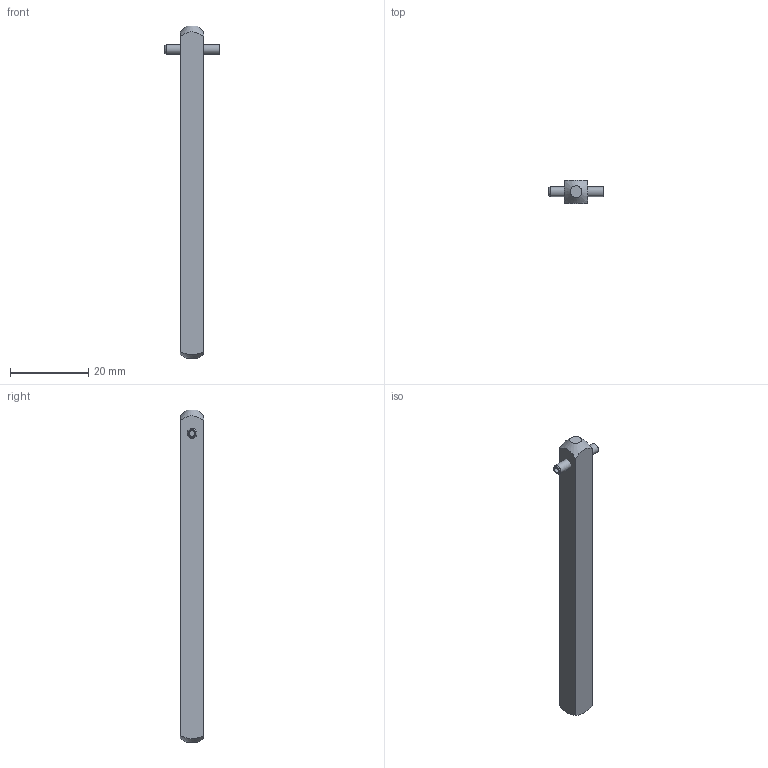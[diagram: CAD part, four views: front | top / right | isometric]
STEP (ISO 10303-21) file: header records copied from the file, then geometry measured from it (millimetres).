
FILE_DESCRIPTION(/* description */ (''),/* implementation_level */ '2;1');
FILE_NAME(/* name */ '4009777.stp',/* time_stamp */ '2017-11-06T08:29:12+01:00',/* author */ (''),/* organization */ (''),/* preprocessor_version */ 'ST-DEVELOPER v16',/* originating_system */ 'SIEMENS PLM Software NX 11.0',/* authorisation */ '');
FILE_SCHEMA (('AUTOMOTIVE_DESIGN { 1 0 10303 214 3 1 1 1 }'));
Length unit declared in the file: millimetre
Products named in the file (1): 4009777_LINKEDEXT_jt
Bounding box: 14 x 6 x 85 mm (x, y, z)
Surface area: 2173.4 mm2 (no closed solid volume)
Topology: 0 solids, 2 shells, 13 faces, 32 edges, 25 vertices
Faces by surface type: plane 9, cone 3, cylinder 1
Entity records: 463 total; most frequent: CARTESIAN_POINT 110, DIRECTION 60, ORIENTED_EDGE 49, EDGE_CURVE 28, AXIS2_PLACEMENT_3D 24, VERTEX_POINT 20, EDGE_LOOP 15, ADVANCED_FACE 13
